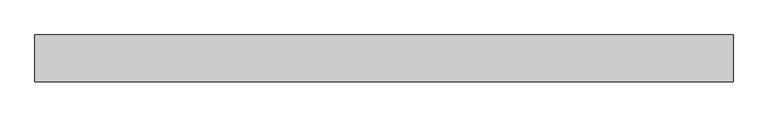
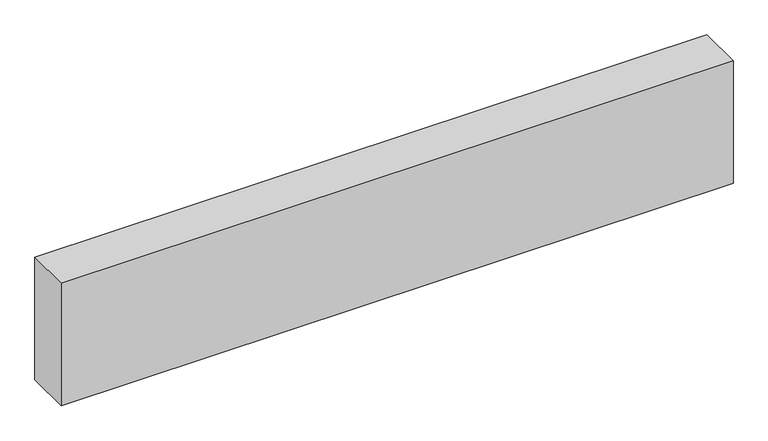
"""IFC4 building model written with IfcOpenShell, lengths in millimetres: proxy geometry."""

from ifc_helpers import new_model, si_unit, frame, origin, place, context, project, spatial, polyline, outline, extrude, source, transform, mapped, element, save


def structural_framing_e7eb55c1(model_context):
    return source(origin(), model_context, "Body", "SweptSolid", [
        extrude(outline(polyline([(-1039.8, -70.0), (-1039.8, 70.0), (1039.8, 70.0), (1039.8, -70.0), (-1039.8, -70.0)])), frame((0.0, 0.0, -400.0), z_axis=(0.0, 0.0, 1.0), x_axis=(1.0, 0.0, 0.0)), (0.0, 0.0, 1.0), 400.0),
    ])


if __name__ == "__main__":
    model = new_model("IFC4")
    model_context = context("Model", 3, world=origin())
    ifc_project = project(units=[si_unit("LENGTHUNIT", "METRE", prefix="MILLI")], contexts=[model_context])
    site = spatial("IfcSite", under=ifc_project)
    building = spatial("IfcBuilding", under=site)
    placement = place(None, origin())
    structural_framing_shape = structural_framing_e7eb55c1(model_context)
    element("IfcBuildingElementProxy", 1, Name="Structural Framing", at=placement, inside=building, context=model_context, shape_type="MappedRepresentation", body=[
        mapped(structural_framing_shape, transform((0.0, 0.0, 0.0), x_axis=(1.0, 0.0, 0.0), y_axis=(0.0, 1.0, 0.0), z_axis=(0.0, 0.0, 1.0))),
    ])
    save(model, "model.ifc")
